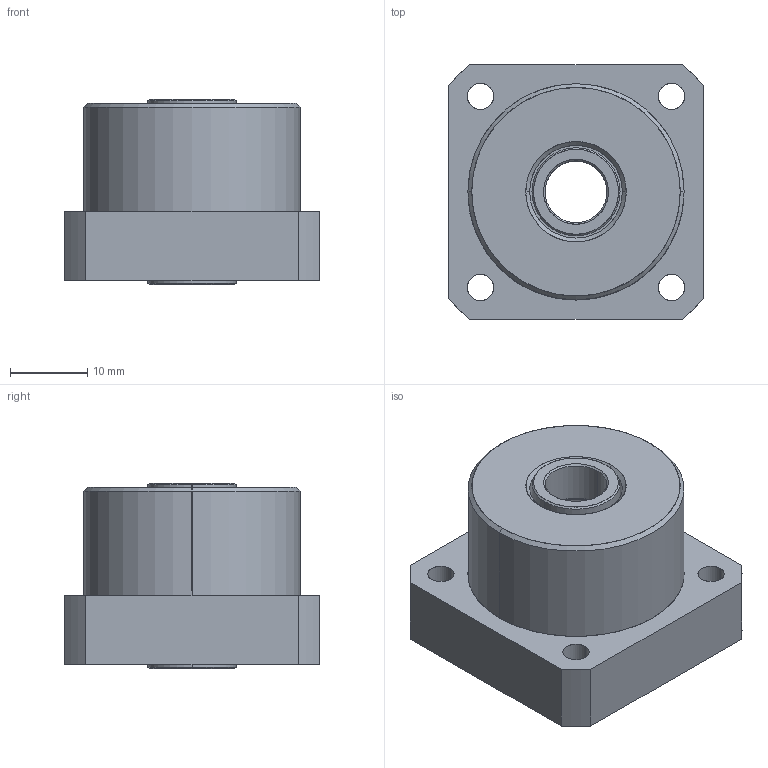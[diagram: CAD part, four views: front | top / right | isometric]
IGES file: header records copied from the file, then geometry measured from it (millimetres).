
Start section: SolidWorks IGES file using analytic representation for surfaces
Global section: file name: E:\同创达图纸\产品示意图\3D选型图\支撑座\FK系列\FK08.IGS; native system: SolidWorks 2012; preprocessor: SolidWorks 2012; author: gao; date: 130702.204542; units: millimetre
Bounding box: 33 x 33 x 24 mm (x, y, z)
Surface area: 7562.4 mm2 (no closed solid volume)
Topology: 0 solids, 0 shells, 81 faces, 1472 edges, 1472 vertices
Faces by surface type: revolution 62, bspline 19
